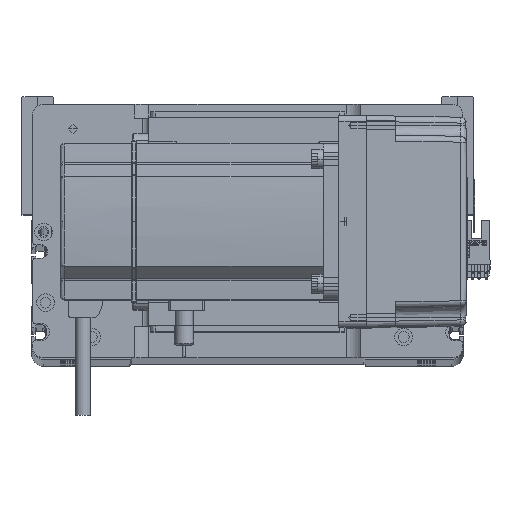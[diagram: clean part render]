
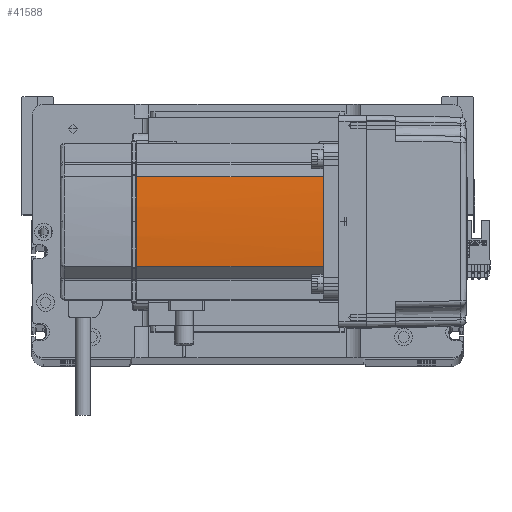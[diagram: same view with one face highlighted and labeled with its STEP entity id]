
A CAD part, top view. The second image highlights one B-rep face of the part: STEP entity #41588.
In plain terms, the highlighted cylindrical face has radius 270 mm (diameter 540 mm), a partial arc.
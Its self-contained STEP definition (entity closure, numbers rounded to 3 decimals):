
#4432 = CIRCLE ( 'NONE', #5013, 270. ) ;
#4542 = FACE_OUTER_BOUND ( 'NONE', #22358, .T. ) ;
#5013 = AXIS2_PLACEMENT_3D ( 'NONE', #54877, #37723, #37543 ) ;
#8535 = CARTESIAN_POINT ( 'NONE',  ( -39.042, 22.724, 0. ) ) ;
#8900 = DIRECTION ( 'NONE',  ( 0., 0., -1. ) ) ;
#9737 = EDGE_CURVE ( 'NONE', #30659, #42746, #39405, .T. ) ;
#11276 = EDGE_CURVE ( 'NONE', #53749, #30659, #46533, .T. ) ;
#12320 = VERTEX_POINT ( 'NONE', #32235 ) ;
#13233 = CARTESIAN_POINT ( 'NONE',  ( -40., 0., 134. ) ) ;
#13486 = DIRECTION ( 'NONE',  ( 0., 0., 1. ) ) ;
#13820 = CYLINDRICAL_SURFACE ( 'NONE', #45466, 270. ) ;
#13946 = CARTESIAN_POINT ( 'NONE',  ( -39.042, -22.724, 39. ) ) ;
#16943 = VERTEX_POINT ( 'NONE', #52600 ) ;
#17032 = DIRECTION ( 'NONE',  ( 1., 0., 0. ) ) ;
#19698 = AXIS2_PLACEMENT_3D ( 'NONE', #53367, #49485, #23564 ) ;
#19942 = EDGE_CURVE ( 'NONE', #42746, #12320, #4432, .T. ) ;
#21376 = ORIENTED_EDGE ( 'NONE', *, *, #41107, .F. ) ;
#22200 = CARTESIAN_POINT ( 'NONE',  ( -39.042, -22.724, 134. ) ) ;
#22358 = EDGE_LOOP ( 'NONE', ( #33353, #41210, #29563, #21376, #36053 ) ) ;
#23564 = DIRECTION ( 'NONE',  ( 1., 0., 0. ) ) ;
#23824 = DIRECTION ( 'NONE',  ( 0., 0., 1. ) ) ;
#26252 = CARTESIAN_POINT ( 'NONE',  ( 230., 0., 0. ) ) ;
#29563 = ORIENTED_EDGE ( 'NONE', *, *, #49417, .T. ) ;
#30659 = VERTEX_POINT ( 'NONE', #22200 ) ;
#32235 = CARTESIAN_POINT ( 'NONE',  ( -39.042, 22.724, 134. ) ) ;
#33353 = ORIENTED_EDGE ( 'NONE', *, *, #9737, .T. ) ;
#35338 = DIRECTION ( 'NONE',  ( 1., 0., 0. ) ) ;
#36053 = ORIENTED_EDGE ( 'NONE', *, *, #11276, .T. ) ;
#37543 = DIRECTION ( 'NONE',  ( 1., 0., 0. ) ) ;
#37723 = DIRECTION ( 'NONE',  ( 0., 0., -1. ) ) ;
#38025 = CARTESIAN_POINT ( 'NONE',  ( 230., 0., 39. ) ) ;
#39405 = CIRCLE ( 'NONE', #19698, 270. ) ;
#41107 = EDGE_CURVE ( 'NONE', #53749, #16943, #44357, .T. ) ;
#41210 = ORIENTED_EDGE ( 'NONE', *, *, #19942, .T. ) ;
#41588 = ADVANCED_FACE ( 'NONE', ( #4542 ), #13820, .T. ) ;
#42421 = VECTOR ( 'NONE', #42633, 1000. ) ;
#42631 = AXIS2_PLACEMENT_3D ( 'NONE', #38025, #8900, #17032 ) ;
#42633 = DIRECTION ( 'NONE',  ( 0., 0., -1. ) ) ;
#42746 = VERTEX_POINT ( 'NONE', #13233 ) ;
#44357 = CIRCLE ( 'NONE', #42631, 270. ) ;
#45466 = AXIS2_PLACEMENT_3D ( 'NONE', #26252, #13486, #35338 ) ;
#45717 = LINE ( 'NONE', #8535, #42421 ) ;
#46533 = LINE ( 'NONE', #49204, #54474 ) ;
#49204 = CARTESIAN_POINT ( 'NONE',  ( -39.042, -22.724, 0. ) ) ;
#49417 = EDGE_CURVE ( 'NONE', #12320, #16943, #45717, .T. ) ;
#49485 = DIRECTION ( 'NONE',  ( 0., 0., -1. ) ) ;
#52600 = CARTESIAN_POINT ( 'NONE',  ( -39.042, 22.724, 39. ) ) ;
#53367 = CARTESIAN_POINT ( 'NONE',  ( 230., 0., 134. ) ) ;
#53749 = VERTEX_POINT ( 'NONE', #13946 ) ;
#54474 = VECTOR ( 'NONE', #23824, 1000. ) ;
#54877 = CARTESIAN_POINT ( 'NONE',  ( 230., 0., 134. ) ) ;
